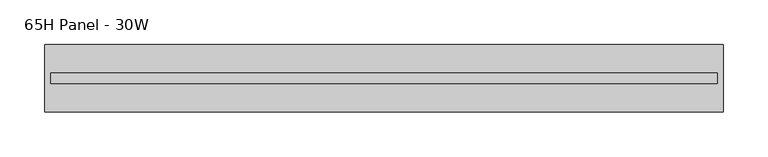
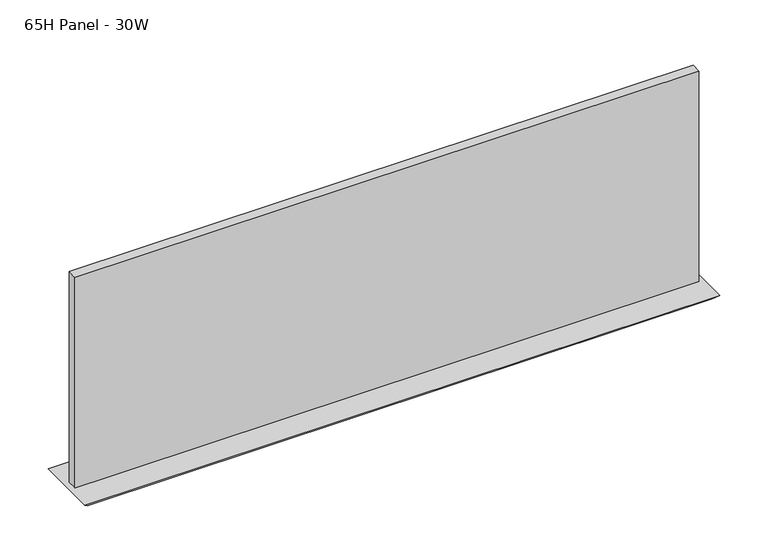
"""IFC4 building model written with IfcOpenShell, lengths in millimetres: furniture geometry, Steelcase - Montage - Tiles - 10H - Frameless Glass Stacker : 65H Panel - 30W."""

from ifc_helpers import new_model, si_unit, frame, origin, place, context, project, spatial, polyline, outline, extrude, faceted_brep, source, transform, mapped, element, save


def furniture_65h_panel_30w_7e91a9ee(model_context):
    return source(origin(), model_context, "Body", "SolidModel", [
        faceted_brep([(762.0, -38.1000015, 1660.525), (0.0, -38.1000015, 1660.525), (6.35, -31.7500015, 1654.175), (755.65, -31.7500015, 1654.175), (6.35, 31.7500015, 1654.175), (755.65, 31.7500015, 1654.175), (0.0, 38.1000015, 1660.525), (762.0, 38.1000015, 1660.525)], [[[0, 1, 2, 3]], [[3, 2, 4, 5]], [[6, 7, 5, 4]], [[1, 0, 7, 6]], [[2, 1, 6, 4]], [[0, 3, 5, 7]]]),
        extrude(outline(polyline([(755.2181828, -5.9944001), (6.7818001, -5.9944001), (6.7818001, 5.9944008), (755.2181828, 5.9944008), (755.2181828, -5.9944001)])), frame((0.0, 0.0, 1660.525), z_axis=(0.0, 0.0, 1.0), x_axis=(1.0, 0.0, 0.0)), (0.0, 0.0, 1.0), 267.7160475),
    ])


if __name__ == "__main__":
    model = new_model("IFC4")
    model_context = context("Model", 3, world=origin())
    ifc_project = project(units=[si_unit("LENGTHUNIT", "METRE", prefix="MILLI")], contexts=[model_context])
    site = spatial("IfcSite", under=ifc_project)
    building = spatial("IfcBuilding", under=site)
    placement = place(None, origin())
    furniture_65h_panel_30w_shape = furniture_65h_panel_30w_7e91a9ee(model_context)
    element("IfcFurniture", 1, ObjectType="Steelcase - Montage - Tiles - 10H - Frameless Glass Stacker : 65H Panel - 30W", at=placement, inside=building, context=model_context, shape_type="MappedRepresentation", body=[
        mapped(furniture_65h_panel_30w_shape, transform((0.0, 0.0, 0.0), x_axis=(1.0, 0.0, 0.0), y_axis=(0.0, 1.0, 0.0), z_axis=(0.0, 0.0, 1.0))),
    ])
    save(model, "model.ifc")
